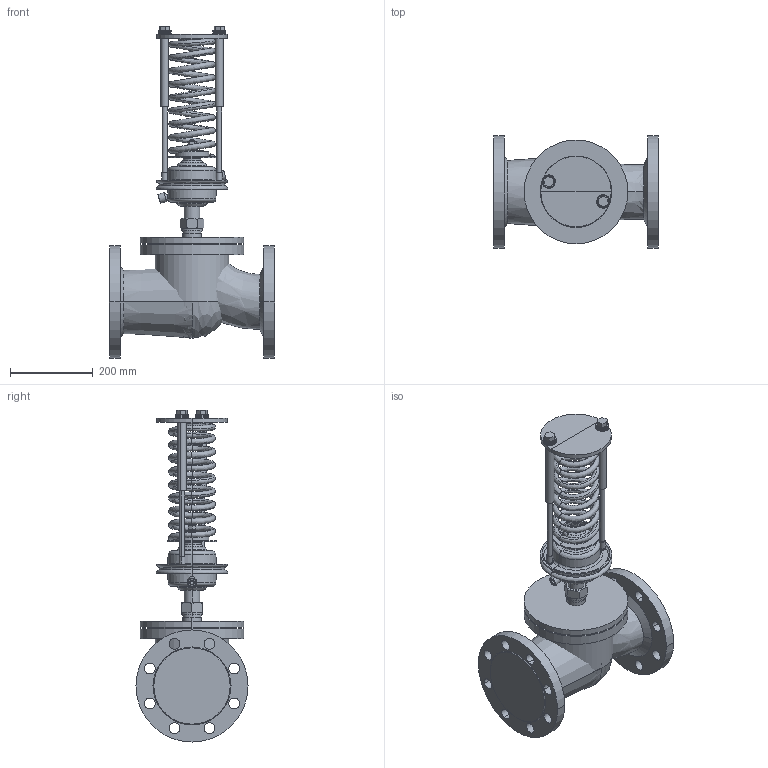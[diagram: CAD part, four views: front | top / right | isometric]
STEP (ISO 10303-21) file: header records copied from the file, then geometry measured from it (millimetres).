
FILE_DESCRIPTION(/* description */ (''),/* implementation_level */ '2;1');
FILE_NAME(/* name */ 'ETM_Регулятордавления_УРРД_НЗ_РД_DN125_PN25 0.3—1.2 МПа',/* time_stamp */ '2026-04-27T12:33:21+03:00',/* author */ (''),/* organization */ (''),/* preprocessor_version */ 'ST-DEVELOPER v20',/* originating_system */ '',/* authorisation */ '');
FILE_SCHEMA (('AP242_MANAGED_MODEL_BASED_3D_ENGINEERING_MIM_LF { 1 0 10303 442 1 1 4 }'));
Length unit declared in the file: millimetre
Products named in the file (13): TopLevelAssembly; Выдавливание; Переход; Выдавливание_
1; Переход_1; Переход_2; Переход_3; Объемная геометрия 
присоединена; Выдавливание_
2; Выдавливание_
3; Объемная геометрия 
присоединена_1; Выдавливание_
4; Пружина красная
Assembly tree (12 placements, depth 2):
  TopLevelAssembly
    Выдавливание
    Переход
    Выдавливание_
1
    Переход_1
    Переход_2
    Переход_3
    Объемная геометрия 
присоединена
    Выдавливание_
2
    Выдавливание_
3
    Объемная геометрия 
присоединена_1
    Выдавливание_
4
    Пружина красная
Bounding box: 400 x 270 x 800.15 mm (x, y, z)
Volume: 17949451.4 mm3; surface area: 1502166.8 mm2
Topology: 31 solids, 31 shells, 522 faces, 1053 edges, 573 vertices
Faces by surface type: plane 181, bspline 177, cylinder 154, cone 10
Entity records: 16710 total; most frequent: CARTESIAN_POINT 5365, DIRECTION 2393, ORIENTED_EDGE 2102, EDGE_CURVE 1051, AXIS2_PLACEMENT_3D 1006, CIRCLE 635, VERTEX_POINT 573, EDGE_LOOP 560
